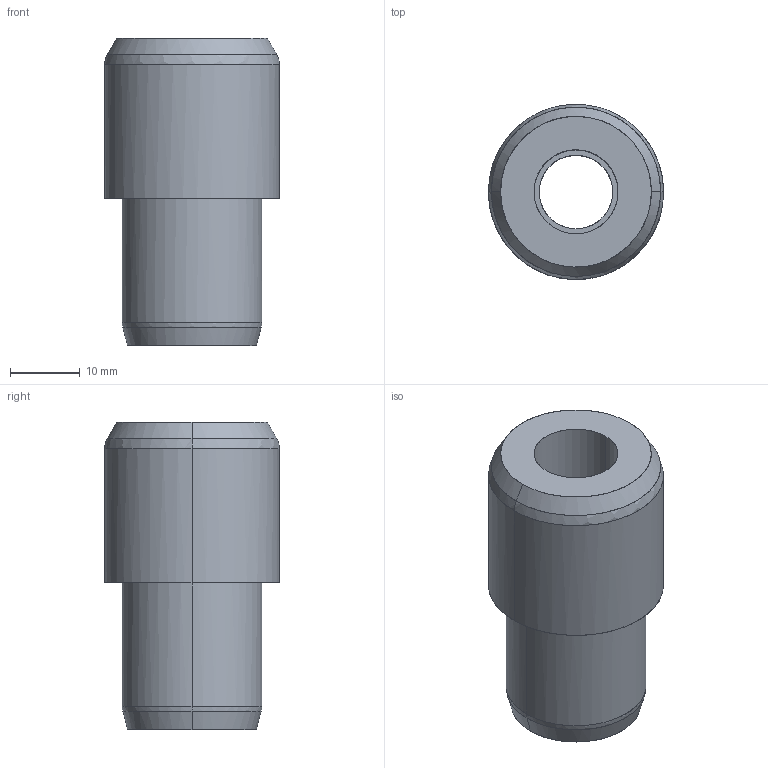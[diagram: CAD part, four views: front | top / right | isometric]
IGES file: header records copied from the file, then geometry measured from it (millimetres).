
Global section: file name: E:\UnigraphicsGraphicData\MISUMI_PRESS-PARTS\IGES\3d_tlpc20_07127_r00.igs; native system: NX V5.0; preprocessor: UGS NX IGES V5.0; author: MISUMI; date: 20110105.163431; units: millimetre
Bounding box: 25 x 25 x 44 mm (x, y, z)
Surface area: 5320 mm2 (no closed solid volume)
Topology: 0 solids, 0 shells, 20 faces, 128 edges, 128 vertices
Faces by surface type: bspline 20
